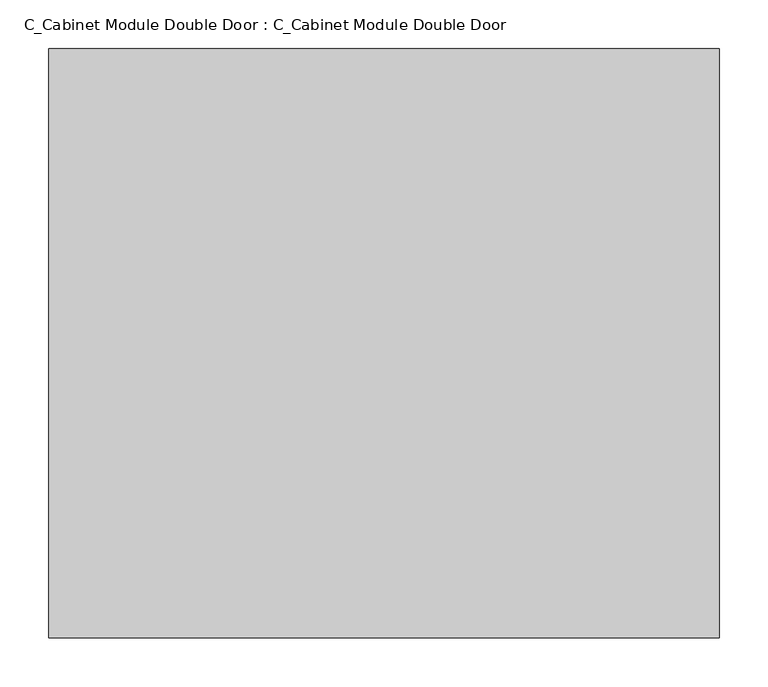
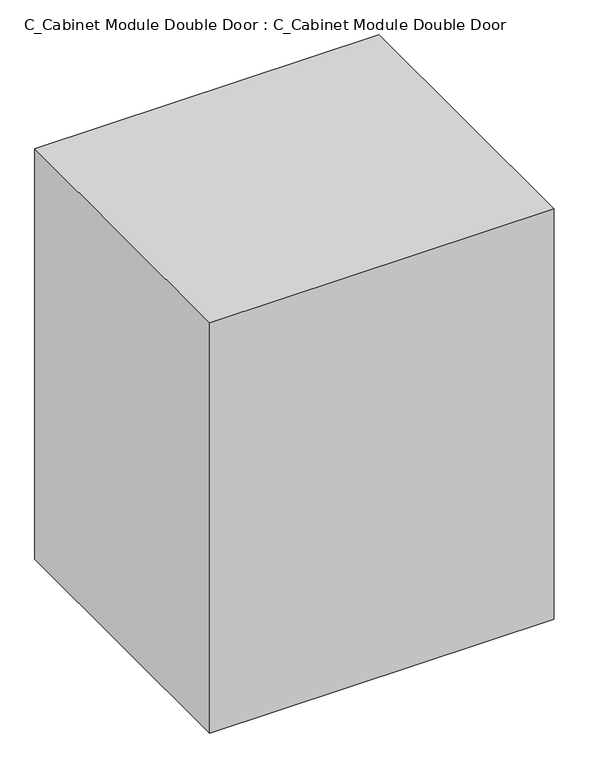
"""IFC4 building model written with IfcOpenShell, lengths in millimetres: furniture geometry, C_Cabinet Module Double Door : C_Cabinet Module Double Door."""

from ifc_helpers import new_model, si_unit, origin, origin_with_axes, place, context, project, spatial, polyline, outline, extrude, source, transform, mapped, element, save


def c_cabinet_module_double_door_c_cabinet_module_double_door_87059c84(model_context):
    return source(origin(), model_context, "Body", "SweptSolid", [
        extrude(outline(polyline([(342.9, 0.0), (-342.9, 0.0), (-342.9, 603.25), (342.9, 603.25), (342.9, 0.0)])), origin_with_axes(), (0.0, 0.0, 1.0), 863.6),
    ])


if __name__ == "__main__":
    model = new_model("IFC4")
    model_context = context("Model", 3, world=origin())
    ifc_project = project(units=[si_unit("LENGTHUNIT", "METRE", prefix="MILLI")], contexts=[model_context])
    site = spatial("IfcSite", under=ifc_project)
    building = spatial("IfcBuilding", under=site)
    placement = place(None, origin())
    c_cabinet_module_double_door_c_cabinet_module_double_door_shape = c_cabinet_module_double_door_c_cabinet_module_double_door_87059c84(model_context)
    element("IfcFurniture", 1, ObjectType="C_Cabinet Module Double Door : C_Cabinet Module Double Door", at=placement, inside=building, context=model_context, shape_type="MappedRepresentation", body=[
        mapped(c_cabinet_module_double_door_c_cabinet_module_double_door_shape, transform((0.0, 0.0, 0.0), x_axis=(1.0, 0.0, 0.0), y_axis=(0.0, 1.0, 0.0), z_axis=(0.0, 0.0, 1.0))),
    ])
    save(model, "model.ifc")
